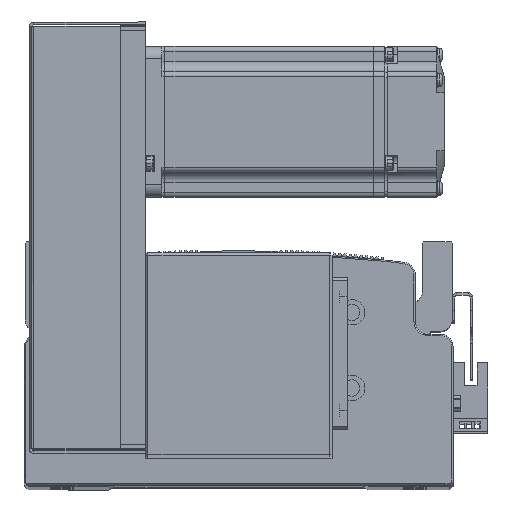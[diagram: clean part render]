
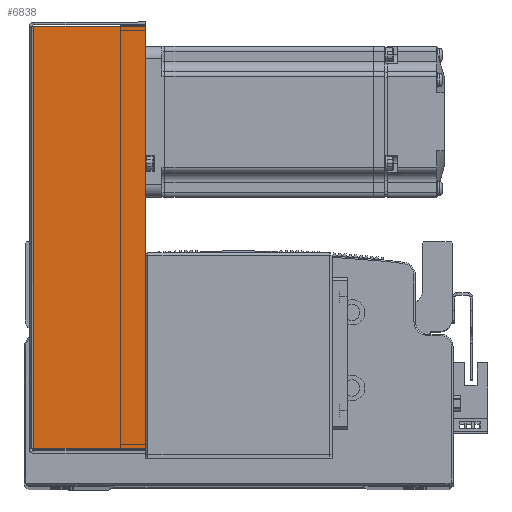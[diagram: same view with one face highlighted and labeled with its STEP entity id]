
A CAD part, top view. The second image highlights one B-rep face of the part: STEP entity #6838.
In plain terms, the highlighted planar face has unit normal (0, 0, 1) as drawn and (0, 0, -1) by its records, which use the part's own axes.
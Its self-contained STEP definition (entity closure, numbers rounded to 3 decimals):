
#74 = VERTEX_POINT ( 'NONE', #63830 ) ;
#91 = VERTEX_POINT ( 'NONE', #63833 ) ;
#92 = VERTEX_POINT ( 'NONE', #63794 ) ;
#129 = VERTEX_POINT ( 'NONE', #63631 ) ;
#2279 = ORIENTED_EDGE ( 'NONE', *, *, #9094, .F. ) ;
#2331 = ORIENTED_EDGE ( 'NONE', *, *, #9046, .T. ) ;
#2370 = ORIENTED_EDGE ( 'NONE', *, *, #9102, .F. ) ;
#2527 = ORIENTED_EDGE ( 'NONE', *, *, #9075, .T. ) ;
#6838 = ADVANCED_FACE ( 'NONE', ( #66334 ), #69052, .F. ) ;
#9046 = EDGE_CURVE ( 'NONE', #91, #129, #71391, .T. ) ;
#9075 = EDGE_CURVE ( 'NONE', #92, #91, #71386, .T. ) ;
#9094 = EDGE_CURVE ( 'NONE', #74, #129, #71458, .T. ) ;
#9102 = EDGE_CURVE ( 'NONE', #92, #74, #71444, .T. ) ;
#13898 = DIRECTION ( 'NONE',  ( 1., 0., 0. ) ) ;
#13920 = CARTESIAN_POINT ( 'NONE',  ( 84.5, 45., -40.5 ) ) ;
#14016 = DIRECTION ( 'NONE',  ( 0., 1., 0. ) ) ;
#14020 = CARTESIAN_POINT ( 'NONE',  ( -83.793, 0., -40.5 ) ) ;
#14062 = DIRECTION ( 'NONE',  ( 0., 1., 0. ) ) ;
#14068 = CARTESIAN_POINT ( 'NONE',  ( 83.793, 0., -40.5 ) ) ;
#14070 = CARTESIAN_POINT ( 'NONE',  ( 0., 0.737, -40.5 ) ) ;
#14073 = DIRECTION ( 'NONE',  ( 1., 0., 0. ) ) ;
#63631 = CARTESIAN_POINT ( 'NONE',  ( 83.793, 45., -40.5 ) ) ;
#63794 = CARTESIAN_POINT ( 'NONE',  ( -83.793, 0.737, -40.5 ) ) ;
#63830 = CARTESIAN_POINT ( 'NONE',  ( 83.793, 0.737, -40.5 ) ) ;
#63833 = CARTESIAN_POINT ( 'NONE',  ( -83.793, 45., -40.5 ) ) ;
#66334 = FACE_OUTER_BOUND ( 'NONE', #78790, .T. ) ;
#69048 = CARTESIAN_POINT ( 'NONE',  ( 0., 0., -40.5 ) ) ;
#69052 = PLANE ( 'NONE',  #76306 ) ;
#69097 = DIRECTION ( 'NONE',  ( 0., -1., 0. ) ) ;
#69119 = DIRECTION ( 'NONE',  ( 0., 0., 1. ) ) ;
#71386 = LINE ( 'NONE', #14020, #71411 ) ;
#71391 = LINE ( 'NONE', #13920, #71420 ) ;
#71411 = VECTOR ( 'NONE', #14016, 1000. ) ;
#71420 = VECTOR ( 'NONE', #13898, 1000. ) ;
#71444 = LINE ( 'NONE', #14070, #71477 ) ;
#71458 = LINE ( 'NONE', #14068, #71482 ) ;
#71477 = VECTOR ( 'NONE', #14073, 1000. ) ;
#71482 = VECTOR ( 'NONE', #14062, 1000. ) ;
#76306 = AXIS2_PLACEMENT_3D ( 'NONE', #69048, #69119, #69097 ) ;
#78790 = EDGE_LOOP ( 'NONE', ( #2370, #2527, #2331, #2279 ) ) ;
